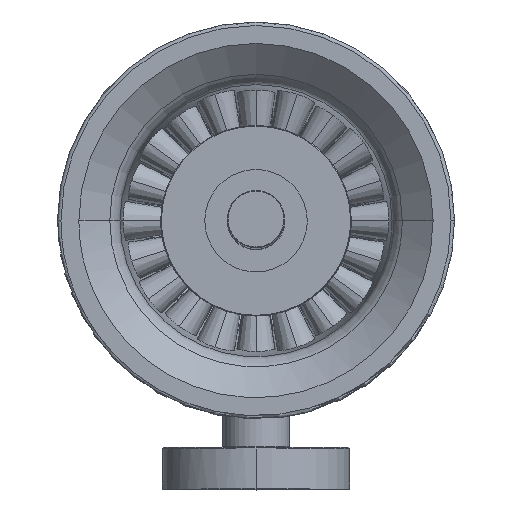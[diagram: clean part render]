
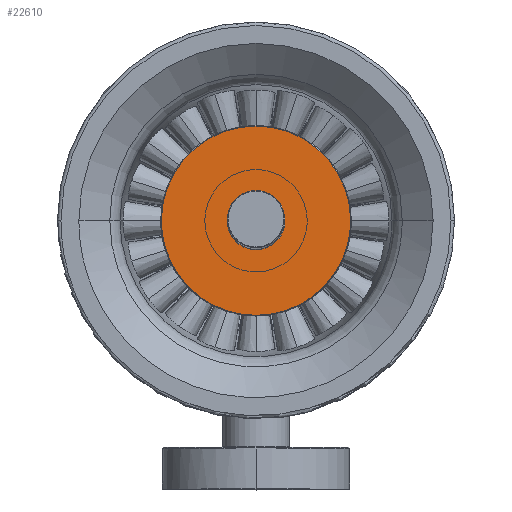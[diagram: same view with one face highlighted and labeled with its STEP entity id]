
A CAD part, top view. The second image highlights one B-rep face of the part: STEP entity #22610.
In plain terms, the highlighted planar face has unit normal (0, 0, 1).
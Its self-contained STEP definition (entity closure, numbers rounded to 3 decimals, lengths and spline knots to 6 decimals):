
#32=VERTEX_POINT('',#33);
#33=CARTESIAN_POINT('',(-0.0082,0.0762,-0.00275));
#38=CARTESIAN_POINT('',(-0.0082,0.0762,-0.00275));
#40=EDGE_CURVE('',#41,#32,#43,.F.);
#41=VERTEX_POINT('',#42);
#42=CARTESIAN_POINT('',(0.0082,0.0762,-0.00275));
#43=(B_SPLINE_CURVE(3,(#38,#44,#45,#46),.UNSPECIFIED.,.F.,.U.)B_SPLINE_CURVE_WITH_KNOTS(
  (4,4),(0.0,1.0),.UNSPECIFIED.)BOUNDED_CURVE()CURVE()GEOMETRIC_REPRESENTATION_ITEM(
  )RATIONAL_B_SPLINE_CURVE((1.0,0.333,0.333,1.0)
  )REPRESENTATION_ITEM(''));
#44=CARTESIAN_POINT('',(-0.0082,0.0598,-0.00275));
#45=CARTESIAN_POINT('',(0.0082,0.0598,-0.00275));
#46=CARTESIAN_POINT('',(0.0082,0.0762,-0.00275));
#104=EDGE_CURVE('',#105,#108,#110,.T.);
#105=VERTEX_POINT('',#106);
#106=CARTESIAN_POINT('',(-0.0268,0.0762,-0.00275));
#107=CARTESIAN_POINT('',(-0.0268,0.0762,-0.00275));
#108=VERTEX_POINT('',#109);
#109=CARTESIAN_POINT('',(0.0268,0.0762,-0.00275));
#110=(B_SPLINE_CURVE(3,(#107,#111,#112,#113),.UNSPECIFIED.,.F.,.U.)B_SPLINE_CURVE_WITH_KNOTS(
  (4,4),(0.0,1.0),.UNSPECIFIED.)BOUNDED_CURVE()CURVE()GEOMETRIC_REPRESENTATION_ITEM(
  )RATIONAL_B_SPLINE_CURVE((1.0,0.333,0.333,1.0)
  )REPRESENTATION_ITEM(''));
#111=CARTESIAN_POINT('',(-0.0268,0.0226,-0.00275));
#112=CARTESIAN_POINT('',(0.0268,0.0226,-0.00275));
#113=CARTESIAN_POINT('',(0.0268,0.0762,-0.00275));
#22610=ADVANCED_FACE('',(#22616,#22626),#22611,.T.);
#22611=PLANE('',#22612);
#22612=AXIS2_PLACEMENT_3D('',#22613,#22614,#22615);
#22613=CARTESIAN_POINT('',(0.027,0.0762,-0.00275));
#22614=DIRECTION('',(0.0,0.0,1.0));
#22615=DIRECTION('',(1.0,0.0,0.0));
#22616=FACE_BOUND('',#22617,.T.);
#22617=EDGE_LOOP('',(#22618,#22619));
#22618=ORIENTED_EDGE('',*,*,#40,.T.);
#22619=ORIENTED_EDGE('',*,*,#22620,.T.);
#22620=EDGE_CURVE('',#32,#41,#22621,.F.);
#22621=CIRCLE('',#22622,0.0082);
#22622=AXIS2_PLACEMENT_3D('',#22623,#22624,#22625);
#22623=CARTESIAN_POINT('',(0.0,0.0762,-0.00275));
#22624=DIRECTION('',(0.0,0.0,1.0));
#22625=DIRECTION('',(1.0,0.0,0.0));
#22626=FACE_OUTER_BOUND('',#22627,.T.);
#22627=EDGE_LOOP('',(#22628,#22635));
#22628=ORIENTED_EDGE('',*,*,#22629,.T.);
#22629=EDGE_CURVE('',#108,#105,#22630,.T.);
#22630=CIRCLE('',#22631,0.0268);
#22631=AXIS2_PLACEMENT_3D('',#22632,#22633,#22634);
#22632=CARTESIAN_POINT('',(0.0,0.0762,-0.00275));
#22633=DIRECTION('',(0.0,0.0,1.0));
#22634=DIRECTION('',(1.0,0.0,0.0));
#22635=ORIENTED_EDGE('',*,*,#104,.T.);
